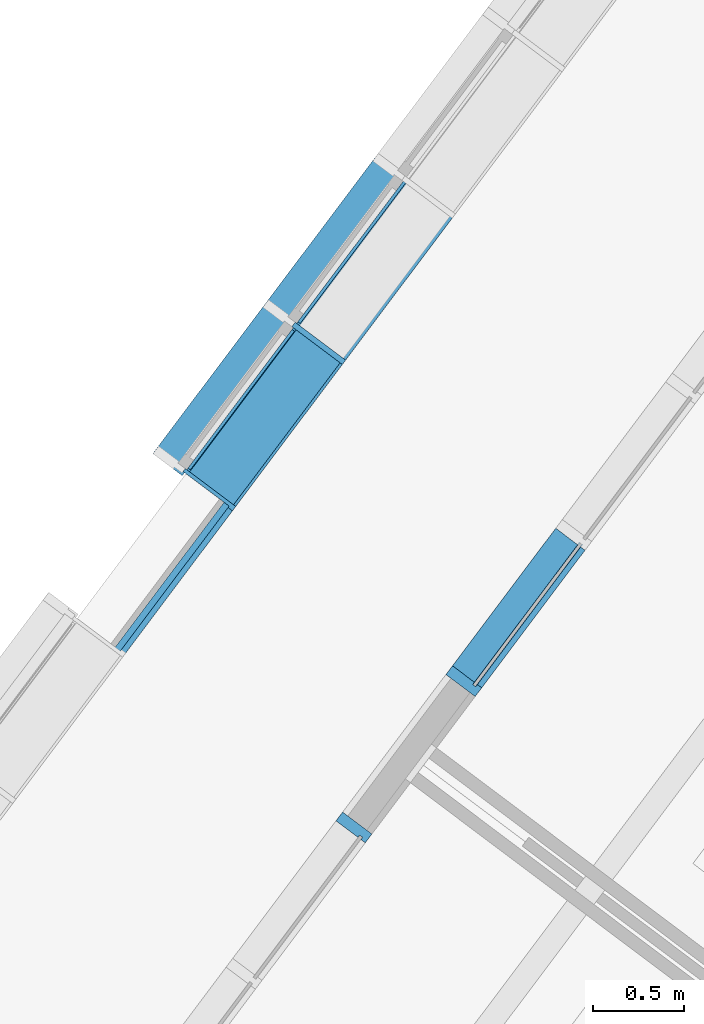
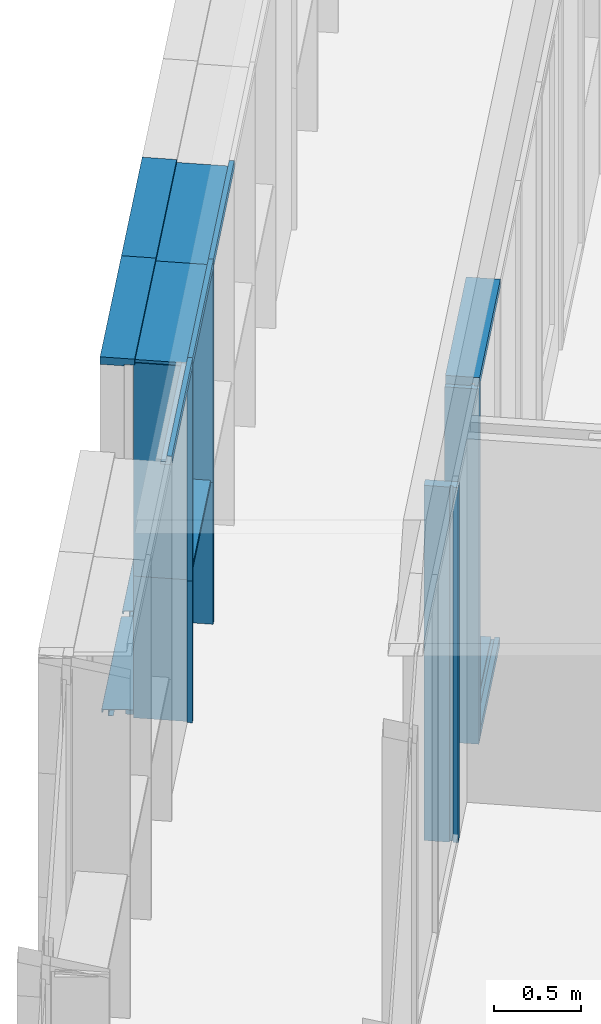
# One storey, part 57 of 243: 16 members, 3 elements without a shape of their own.
"""IFC2X3 building model written with IfcOpenShell, lengths in metres."""

import ifcopenshell
import ifcopenshell.guid

model = None  # the IFC model being written
_history = None  # IfcOwnerHistory: only IFC2X3 demands one
_inside = {}  # id of a spatial element -> (the spatial element, [elements in it])
_under = {}  # id of a project, library or spatial element -> (it, [spatial elements below it])
_declared = {}  # id of a project -> (the project, [libraries it declares])
_typed = {}  # id of a type object -> (the type object, [elements of that type])
_made_of = {}  # id of a material, layer set ... -> (it, [elements and type objects made of it])


def new_model(schema):
    """Start an empty IFC model of exactly this schema.

    Asked for "IFC4X3", IfcOpenShell would pick the latest addendum, in which some entities
    have other attributes; the version numbers below select the first issue.
    IFC2X3 requires an IfcOwnerHistory on every rooted entity: one is made here for all.
    """
    global model, _history
    if schema == "IFC4X3":
        model = ifcopenshell.file(schema_version=(4, 3, 0, 0))
    else:
        model = ifcopenshell.file(schema=schema)
    _inside.clear()
    _under.clear()
    _declared.clear()
    _typed.clear()
    _made_of.clear()
    _history = None
    if model.schema == "IFC2X3":
        org = make("IfcOrganization", Name="unknown")
        user = make(
            "IfcPersonAndOrganization",
            ThePerson=make("IfcPerson", FamilyName="unknown"),
            TheOrganization=org,
        )
        app = make(
            "IfcApplication",
            ApplicationDeveloper=org,
            Version="unknown",
            ApplicationFullName="unknown",
            ApplicationIdentifier="unknown",
        )
        _history = make(
            "IfcOwnerHistory",
            OwningUser=user,
            OwningApplication=app,
            ChangeAction="ADDED",
            CreationDate=0,
        )
    return model


def make(cls, **values):
    """One entity of the class cls with the attributes given. An attribute that is None is left unset."""
    return model.create_entity(
        cls, **{name: value for name, value in values.items() if value is not None}
    )


def entity(cls, *values):
    """Any entity or typed value of the class cls, its attributes in the order of the schema. None: left unset."""
    e = model.create_entity(cls)
    for i, value in enumerate(values):
        if value is not None:
            e[i] = value
    return e


def rooted(cls, **values):
    """An entity with a GlobalId (a new one), such as an element, a storey or a relation."""
    return make(cls, GlobalId=ifcopenshell.guid.new(), OwnerHistory=_history, **values)


def si_unit(unit_type, name, prefix=None):
    """IfcSIUnit, for example si_unit("LENGTHUNIT", "METRE", prefix="MILLI")."""
    return make("IfcSIUnit", UnitType=unit_type, Prefix=prefix, Name=name)


def converted_unit(unit_type, name, factor, base, dimensions=None, offset=None):
    """IfcConversionBasedUnit, such as the inch: factor (a typed value) times the base unit."""
    return make(
        "IfcConversionBasedUnit"
        if offset is None
        else "IfcConversionBasedUnitWithOffset",
        ConversionOffset=offset,
        Dimensions=None
        if dimensions is None
        else entity("IfcDimensionalExponents", *dimensions),
        UnitType=unit_type,
        Name=name,
        ConversionFactor=make(
            "IfcMeasureWithUnit", ValueComponent=factor, UnitComponent=base
        ),
    )


def derived_unit(unit_type, elements):
    """IfcDerivedUnit: a product of units, each with its exponent."""
    return make(
        "IfcDerivedUnit",
        Elements=[
            make("IfcDerivedUnitElement", Unit=unit, Exponent=power)
            for unit, power in elements
        ],
        UnitType=unit_type,
    )


def assignment(units):
    """IfcUnitAssignment: the units of a project."""
    return None if units is None else make("IfcUnitAssignment", Units=units)


def point(xyz):
    """IfcCartesianPoint."""
    return None if xyz is None else make("IfcCartesianPoint", Coordinates=xyz)


def direction(xyz):
    """IfcDirection."""
    return None if xyz is None else make("IfcDirection", DirectionRatios=xyz)


def frame(location, z_axis=None, x_axis=None):
    """IfcAxis2Placement3D, a coordinate frame: its origin and axes. An axis left out is left unset."""
    return make(
        "IfcAxis2Placement3D",
        Location=point(location),
        Axis=direction(z_axis),
        RefDirection=direction(x_axis),
    )


def frame_2d(location, x_axis=None):
    """IfcAxis2Placement2D, a coordinate frame in the plane: its origin and x axis."""
    return make(
        "IfcAxis2Placement2D", Location=point(location), RefDirection=direction(x_axis)
    )


def origin():
    """The frame at (0, 0, 0) with its axes left unset."""
    return frame((0.0, 0.0, 0.0))


def place(relative_to, where):
    """IfcLocalPlacement: puts the frame where relative to a parent placement (None: the world)."""
    return make(
        "IfcLocalPlacement", PlacementRelTo=relative_to, RelativePlacement=where
    )


def context(
    kind, dimensions, precision=None, world=None, true_north=None, identifier=None
):
    """IfcGeometricRepresentationContext, for example the 3D "Model" context."""
    return make(
        "IfcGeometricRepresentationContext",
        ContextIdentifier=identifier,
        ContextType=kind,
        CoordinateSpaceDimension=dimensions,
        Precision=precision,
        WorldCoordinateSystem=world,
        TrueNorth=true_north,
    )


def subcontext(parent, identifier, kind, view, scale=None):
    """IfcGeometricRepresentationSubContext, for example "Body" below "Model"."""
    return make(
        "IfcGeometricRepresentationSubContext",
        ContextIdentifier=identifier,
        ContextType=kind,
        ParentContext=parent,
        TargetScale=scale,
        TargetView=view,
    )


def project(units=None, contexts=None):
    """IfcProject with its units and contexts."""
    return rooted(
        "IfcProject",
        Name="project",
        RepresentationContexts=contexts,
        UnitsInContext=assignment(units),
    )


def spatial(cls, under=None, at=None, **own):
    """A site, building, storey or space (cls), placed at a placement, below another one or the project."""
    s = rooted(cls, ObjectPlacement=at, **own)
    if under is not None:
        _under.setdefault(under.id(), (under, []))[1].append(s)
    return s


def polyline(points):
    """IfcPolyline through the points."""
    return make("IfcPolyline", Points=[point(p) for p in points])


def circle_curve(where, radius):
    """IfcCircle in the frame where."""
    return make("IfcCircle", Position=where, Radius=radius)


def parameter(value):
    """IfcParameterValue: where a trimmed curve begins or ends, as a parameter of its basis curve."""
    return model.create_entity("IfcParameterValue", value)


def trimmed(basis, trim1, trim2, sense, master):
    """IfcTrimmedCurve: the piece of a basis curve between two trims."""
    return make(
        "IfcTrimmedCurve",
        BasisCurve=basis,
        Trim1=trim1,
        Trim2=trim2,
        SenseAgreement=sense,
        MasterRepresentation=master,
    )


def segment(curve, same_sense, transition):
    """IfcCompositeCurveSegment."""
    return make(
        "IfcCompositeCurveSegment",
        Transition=transition,
        SameSense=same_sense,
        ParentCurve=curve,
    )


def composite_curve(segments, self_intersect=None):
    """IfcCompositeCurve: segments joined end to end."""
    return make("IfcCompositeCurve", Segments=segments, SelfIntersect=self_intersect)


def profile(cls, at=None, kind="AREA", **sizes):
    """A parametric profile (cls). Its sizes go by their IFC names, for example OverallWidth=200.0."""
    return make(cls, ProfileType=kind, Position=at, **sizes)


def rectangle(**sizes):
    """IfcRectangleProfileDef."""
    return profile("IfcRectangleProfileDef", **sizes)


def outline(outer, holes=None, kind="AREA"):
    """IfcArbitraryClosedProfileDef: a profile drawn as a closed curve; with holes, ...WithVoids."""
    if holes is None:
        return make("IfcArbitraryClosedProfileDef", ProfileType=kind, OuterCurve=outer)
    return make(
        "IfcArbitraryProfileDefWithVoids",
        ProfileType=kind,
        OuterCurve=outer,
        InnerCurves=holes,
    )


def extrude(swept, where, along, depth):
    """IfcExtrudedAreaSolid: the profile swept, set in the frame where, extruded along a direction by depth."""
    return make(
        "IfcExtrudedAreaSolid",
        SweptArea=swept,
        Position=where,
        ExtrudedDirection=direction(along),
        Depth=depth,
    )


def shape(context_of_items, identifier, shape_type, items):
    """IfcShapeRepresentation: the items that make up one representation, for example the "Body"."""
    return make(
        "IfcShapeRepresentation",
        ContextOfItems=context_of_items,
        RepresentationIdentifier=identifier,
        RepresentationType=shape_type,
        Items=items,
    )


def source(mapping_origin, context_of_items, identifier, shape_type, items):
    """IfcRepresentationMap: a shape defined once, which mapped items show again and again."""
    return make(
        "IfcRepresentationMap",
        MappingOrigin=mapping_origin,
        MappedRepresentation=shape(context_of_items, identifier, shape_type, items),
    )


def transform(
    local_origin,
    x_axis=None,
    y_axis=None,
    z_axis=None,
    scale=None,
    scale2=None,
    scale3=None,
    uniform=True,
):
    """IfcCartesianTransformationOperator3D, or its non-uniform kind. x_axis, y_axis, z_axis: its Axis1, 2, 3."""
    if uniform:
        return make(
            "IfcCartesianTransformationOperator3D",
            Axis1=direction(x_axis),
            Axis2=direction(y_axis),
            LocalOrigin=point(local_origin),
            Scale=scale,
            Axis3=direction(z_axis),
        )
    return make(
        "IfcCartesianTransformationOperator3DnonUniform",
        Axis1=direction(x_axis),
        Axis2=direction(y_axis),
        LocalOrigin=point(local_origin),
        Scale=scale,
        Axis3=direction(z_axis),
        Scale2=scale2,
        Scale3=scale3,
    )


def mapped(mapping_source, mapping_target):
    """IfcMappedItem: shows the shape of a source again, moved by a transform."""
    return make(
        "IfcMappedItem", MappingSource=mapping_source, MappingTarget=mapping_target
    )


def material(Name=None, Category=None):
    """IfcMaterial."""
    return make("IfcMaterial", Name=Name, Category=Category)


def made_of(thing, what):
    """Note that an element or type object is made of a material, layer set ...; save() writes the relation."""
    if what is not None:
        _made_of.setdefault(what.id(), (what, []))[1].append(thing)
    return thing


def type_object(cls, material=None, **own):
    """A type object (cls), such as IfcWallType, which elements share."""
    return made_of(rooted(cls, **own), material)


def type_shapes(of_type, sources):
    """Give a type object the sources (RepresentationMaps) that its elements show as mapped items."""
    of_type.RepresentationMaps = sources


def element(
    cls,
    number,
    at=None,
    inside=None,
    cuts=None,
    type_object=None,
    material=None,
    context=None,
    identifier="Body",
    shape_type=None,
    held_by="IfcProductDefinitionShape",
    body=None,
    shapes=None,
    **own,
):
    """One element of the class cls, such as IfcWall. Its Tag is "e" and its number.

    at: its placement. inside: the storey or other place that contains it. cuts: it is an
    opening in that element (IfcRelVoidsElement). A single representation is given by context,
    identifier, shape_type and body (its items); several are given by shapes. held_by: the class
    of the entity that holds the representations. save() writes the other relations.
    """
    e = rooted(cls, Tag="e%d" % number, ObjectPlacement=at, **own)
    if body is not None:
        shapes = [shape(context, identifier, shape_type, body)]
    if shapes is not None:
        e.Representation = make(held_by, Representations=shapes)
    if inside is not None:
        _inside.setdefault(inside.id(), (inside, []))[1].append(e)
    if cuts is not None:
        rooted(
            "IfcRelVoidsElement", RelatingBuildingElement=cuts, RelatedOpeningElement=e
        )
    if type_object is not None:
        _typed.setdefault(type_object.id(), (type_object, []))[1].append(e)
    return made_of(e, material)


def aggregate(whole, parts):
    """IfcRelAggregates: a whole, such as a stair, and the parts it consists of."""
    return rooted("IfcRelAggregates", RelatingObject=whole, RelatedObjects=parts)


def save(model, path):
    """Write the relations noted so far, then the file.

    IfcRelAggregates (storeys below a building ...), IfcRelContainedInSpatialStructure (elements
    in a storey), IfcRelDefinesByType, IfcRelAssociatesMaterial and IfcRelDeclares: one each for
    every whole, place, type object, material and project.
    """
    for whole, parts in _under.values():
        aggregate(whole, parts)
    for where, things in _inside.values():
        rooted(
            "IfcRelContainedInSpatialStructure",
            RelatedElements=things,
            RelatingStructure=where,
        )
    for kind, things in _typed.values():
        rooted("IfcRelDefinesByType", RelatedObjects=things, RelatingType=kind)
    for what, things in _made_of.values():
        rooted("IfcRelAssociatesMaterial", RelatedObjects=things, RelatingMaterial=what)
    for by, libraries in _declared.values():
        rooted("IfcRelDeclares", RelatingContext=by, RelatedDefinitions=libraries)
    model.write(path)


model = new_model("IFC2X3")

# Units and contexts
model_context = context("Model", 3, precision=1e-05, world=origin(), true_north=direction((6.123031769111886e-17, 1.0)))
body_context = subcontext(model_context, "Body", "Model", "MODEL_VIEW")
ifc_project = project(units=[si_unit("LENGTHUNIT", "METRE"), si_unit("AREAUNIT", "SQUARE_METRE"), si_unit("VOLUMEUNIT", "CUBIC_METRE"), converted_unit("PLANEANGLEUNIT", "DEGREE", entity("IfcRatioMeasure", 0.017453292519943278), si_unit("PLANEANGLEUNIT", "RADIAN"), dimensions=[0, 0, 0, 0, 0, 0, 0]), si_unit("MASSUNIT", "GRAM", prefix="KILO"), derived_unit("MASSDENSITYUNIT", [(si_unit("MASSUNIT", "GRAM", prefix="KILO"), 1), (si_unit("LENGTHUNIT", "METRE"), -3)]), derived_unit("IONCONCENTRATIONUNIT", [(si_unit("MASSUNIT", "GRAM", prefix="KILO"), 1), (si_unit("LENGTHUNIT", "METRE"), -3)]), derived_unit("MOMENTOFINERTIAUNIT", [(si_unit("LENGTHUNIT", "METRE"), 4)]), si_unit("TIMEUNIT", "SECOND"), si_unit("FREQUENCYUNIT", "HERTZ"), si_unit("THERMODYNAMICTEMPERATUREUNIT", "DEGREE_CELSIUS"), derived_unit("THERMALTRANSMITTANCEUNIT", [(si_unit("MASSUNIT", "GRAM", prefix="KILO"), 1), (si_unit("THERMODYNAMICTEMPERATUREUNIT", "KELVIN"), -1), (si_unit("TIMEUNIT", "SECOND"), -3)]), derived_unit("THERMALCONDUCTANCEUNIT", [(si_unit("MASSUNIT", "GRAM", prefix="KILO"), 1), (si_unit("THERMODYNAMICTEMPERATUREUNIT", "KELVIN"), -1), (si_unit("TIMEUNIT", "SECOND"), -3), (si_unit("LENGTHUNIT", "METRE"), 1)]), derived_unit("VOLUMETRICFLOWRATEUNIT", [(si_unit("LENGTHUNIT", "METRE"), 3), (si_unit("TIMEUNIT", "SECOND"), -1)]), derived_unit("MASSFLOWRATEUNIT", [(si_unit("MASSUNIT", "GRAM", prefix="KILO"), 1), (si_unit("TIMEUNIT", "SECOND"), -1)]), derived_unit("ROTATIONALFREQUENCYUNIT", [(si_unit("TIMEUNIT", "SECOND"), -1)]), si_unit("ELECTRICCURRENTUNIT", "AMPERE"), si_unit("ELECTRICVOLTAGEUNIT", "VOLT"), si_unit("POWERUNIT", "WATT"), si_unit("FORCEUNIT", "NEWTON", prefix="KILO"), si_unit("ILLUMINANCEUNIT", "LUX"), si_unit("LUMINOUSFLUXUNIT", "LUMEN"), si_unit("LUMINOUSINTENSITYUNIT", "CANDELA"), derived_unit("USERDEFINED", [(si_unit("MASSUNIT", "GRAM", prefix="KILO"), -1), (si_unit("LENGTHUNIT", "METRE"), -2), (si_unit("TIMEUNIT", "SECOND"), 3), (si_unit("LUMINOUSFLUXUNIT", "LUMEN"), 1)]), derived_unit("USERDEFINED", [(si_unit("MASSUNIT", "GRAM", prefix="KILO"), 1), (si_unit("TIMEUNIT", "SECOND"), -3), (si_unit("LENGTHUNIT", "METRE"), 3), (si_unit("ELECTRICCURRENTUNIT", "AMPERE"), -2)]), derived_unit("SOUNDPOWERUNIT", [(si_unit("MASSUNIT", "GRAM", prefix="KILO"), 1), (si_unit("TIMEUNIT", "SECOND"), -3), (si_unit("LENGTHUNIT", "METRE"), 2)]), derived_unit("SOUNDPRESSUREUNIT", [(si_unit("MASSUNIT", "GRAM", prefix="KILO"), 1), (si_unit("LENGTHUNIT", "METRE"), -1), (si_unit("TIMEUNIT", "SECOND"), -2)]), derived_unit("LINEARVELOCITYUNIT", [(si_unit("LENGTHUNIT", "METRE"), 1), (si_unit("TIMEUNIT", "SECOND"), -1)]), si_unit("PRESSUREUNIT", "PASCAL"), derived_unit("USERDEFINED", [(si_unit("MASSUNIT", "GRAM", prefix="KILO"), 1), (si_unit("LENGTHUNIT", "METRE"), -2), (si_unit("TIMEUNIT", "SECOND"), -2)]), derived_unit("LINEARFORCEUNIT", [(si_unit("MASSUNIT", "GRAM", prefix="KILO"), 1), (si_unit("TIMEUNIT", "SECOND"), -2)]), derived_unit("PLANARFORCEUNIT", [(si_unit("MASSUNIT", "GRAM", prefix="KILO"), 1), (si_unit("LENGTHUNIT", "METRE"), -1), (si_unit("TIMEUNIT", "SECOND"), -2)]), derived_unit("SPECIFICHEATCAPACITYUNIT", [(si_unit("THERMODYNAMICTEMPERATUREUNIT", "KELVIN"), -1), (si_unit("LENGTHUNIT", "METRE"), 2), (si_unit("TIMEUNIT", "SECOND"), -2)]), derived_unit("HEATINGVALUEUNIT", [(si_unit("LENGTHUNIT", "METRE"), 2), (si_unit("TIMEUNIT", "SECOND"), -2)]), derived_unit("VAPORPERMEABILITYUNIT", [(si_unit("LENGTHUNIT", "METRE"), -1), (si_unit("TIMEUNIT", "SECOND"), 1)]), derived_unit("DYNAMICVISCOSITYUNIT", [(si_unit("MASSUNIT", "GRAM", prefix="KILO"), 1), (si_unit("TIMEUNIT", "SECOND"), -1), (si_unit("LENGTHUNIT", "METRE"), -1)]), derived_unit("THERMALEXPANSIONCOEFFICIENTUNIT", [(si_unit("THERMODYNAMICTEMPERATUREUNIT", "KELVIN"), -1)]), derived_unit("MODULUSOFELASTICITYUNIT", [(si_unit("MASSUNIT", "GRAM", prefix="KILO"), 1), (si_unit("LENGTHUNIT", "METRE"), -1), (si_unit("TIMEUNIT", "SECOND"), -2)]), derived_unit("ISOTHERMALMOISTURECAPACITYUNIT", [(si_unit("LENGTHUNIT", "METRE"), 3), (si_unit("MASSUNIT", "GRAM", prefix="KILO"), -1)]), derived_unit("MOISTUREDIFFUSIVITYUNIT", [(si_unit("TIMEUNIT", "SECOND"), -1), (si_unit("LENGTHUNIT", "METRE"), 2)])], contexts=[model_context])

# Site, building, storey
site_placement = place(None, frame((0.0, 0.0, 235.0), z_axis=(0.0, 0.0, 1.0), x_axis=(-0.7996477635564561, 0.6004693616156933, 0.0)))
site = spatial("IfcSite", under=ifc_project, at=site_placement, Name="Default", CompositionType="ELEMENT")
building_placement = place(site_placement, origin())
building = spatial("IfcBuilding", under=site, at=building_placement, CompositionType="ELEMENT")
storey_placement = place(building_placement, origin())
storey = spatial("IfcBuildingStorey", under=building, at=storey_placement, Name="P0- Escola", CompositionType="ELEMENT", Elevation=0.0)

# Curtain wall, members
curtain_wall_type_1 = type_object("IfcCurtainWallType", Name="Muro cortina:MC- INT- a1", PredefinedType="NOTDEFINED")
curtain_wall_1_placement = place(storey_placement, origin())
curtain_wall_1 = element("IfcCurtainWall", 1, at=curtain_wall_1_placement, inside=storey, type_object=curtain_wall_type_1, Name="Muro cortina:MC- INT- a1", ObjectType="Muro cortina:MC- INT- a1")
ifc_material_1 = material(Name="_Fusta massisa- T1")
member_type_1 = type_object("IfcMemberType", Name="Montante rectangular:MC- Fusta- 20x6 cm- Esquerra", PredefinedType="MULLION", material=ifc_material_1)
shared_shape_1 = source(origin(), body_context, "Body", "SweptSolid", [
    extrude(outline(polyline([(-0.07000000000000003, -0.01875000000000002), (-0.04000000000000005, -0.01875000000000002), (-0.04000000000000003, -0.0037500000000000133), (-0.020000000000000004, -0.0037500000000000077), (-0.02, -0.018750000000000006), (0.13, -0.018749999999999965), (0.12999999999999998, 0.04125000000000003), (-0.06999999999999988, 0.04124999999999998), (-0.07000000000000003, -0.01875000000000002)])), frame((-0.01124999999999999, -0.03, -2.5050000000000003), z_axis=(0.0, 0.0, 1.0), x_axis=(0.0, -1.0, 0.0)), (0.0, 0.0, 1.0), 2.5050000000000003),
])
type_shapes(member_type_1, [shared_shape_1])
member_1_placement = place(curtain_wall_1_placement, frame((72.720147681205, -29.4151899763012, 0.0), z_axis=(0.0, 0.0, -1.0), x_axis=(0.0, -1.0, 0.0)))
member_1 = element("IfcMember", 2, at=member_1_placement, type_object=member_type_1, material=ifc_material_1, Name="Montante rectangular:MC- Fusta- 20x6 cm- Esquerra", ObjectType="Montante rectangular:MC- Fusta- 20x6 cm- Esquerra", context=body_context, shape_type="MappedRepresentation", body=[
    mapped(shared_shape_1, transform((0.0, 0.0, 0.0), scale=1.0)),
])
member_type_2 = type_object("IfcMemberType", Name="Montante rectangular:MC- Fusta- 20x6 cm- Dreta", PredefinedType="MULLION", material=ifc_material_1)
shared_shape_2 = source(origin(), body_context, "Body", "SweptSolid", [
    extrude(outline(polyline([(-0.07000000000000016, -0.041249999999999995), (0.13000000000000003, -0.041249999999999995), (0.13000000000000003, 0.01875), (-0.019999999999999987, 0.01875), (-0.019999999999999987, 0.00375), (-0.04000000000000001, 0.00375), (-0.03999999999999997, 0.01875), (-0.06999999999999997, 0.01875), (-0.07000000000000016, -0.041249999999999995)])), frame((0.011250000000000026, -0.02999999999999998, -2.5050000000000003), z_axis=(0.0, 0.0, 1.0), x_axis=(0.0, -1.0, 0.0)), (0.0, 0.0, 1.0), 2.5050000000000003),
])
type_shapes(member_type_2, [shared_shape_2])
member_2_placement = place(curtain_wall_1_placement, frame((72.720147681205, -30.4151899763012, 0.0), z_axis=(0.0, 0.0, -1.0), x_axis=(0.0, -1.0, 0.0)))
member_2 = element("IfcMember", 3, at=member_2_placement, type_object=member_type_2, material=ifc_material_1, Name="Montante rectangular:MC- Fusta- 20x6 cm- Dreta", ObjectType="Montante rectangular:MC- Fusta- 20x6 cm- Dreta", context=body_context, shape_type="MappedRepresentation", body=[
    mapped(shared_shape_2, transform((0.0, 0.0, 0.0), scale=1.0)),
])
member_type_3 = type_object("IfcMemberType", Name="Montante rectangular:MC- Fusta- 20x6 cm- Esquerra", PredefinedType="MULLION", material=ifc_material_1)
shared_shape_3 = source(origin(), body_context, "Body", "SweptSolid", [
    extrude(outline(polyline([(-0.07000000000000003, -0.01875000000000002), (-0.04000000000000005, -0.01875000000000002), (-0.04000000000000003, -0.0037500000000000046), (-0.020000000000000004, -0.0037500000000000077), (-0.02, -0.018750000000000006), (0.13, -0.018749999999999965), (0.12999999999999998, 0.04125000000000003), (-0.06999999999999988, 0.04124999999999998), (-0.07000000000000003, -0.01875000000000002)])), frame((-0.041249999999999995, -0.03, -1.0), z_axis=(0.0, 0.0, 1.0), x_axis=(0.0, -1.0, 0.0)), (0.0, 0.0, 1.0), 0.9999999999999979),
])
type_shapes(member_type_3, [shared_shape_3])
member_3_placement = place(curtain_wall_1_placement, frame((72.720147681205, -31.415189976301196, 2.565), z_axis=(0.0, -1.0, 0.0), x_axis=(0.0, 0.0, 1.0)))
member_3 = element("IfcMember", 4, at=member_3_placement, type_object=member_type_3, material=ifc_material_1, Name="Montante rectangular:MC- Fusta- 20x6 cm- Esquerra", ObjectType="Montante rectangular:MC- Fusta- 20x6 cm- Esquerra", context=body_context, shape_type="MappedRepresentation", body=[
    mapped(shared_shape_3, transform((0.0, 0.0, 0.0), scale=1.0)),
])
member_type_4 = type_object("IfcMemberType", Name="Montante rectangular:MC- Fusta- 20x6 cm- Inferior", PredefinedType="MULLION", material=ifc_material_1)
shared_shape_4 = source(origin(), body_context, "Body", "SweptSolid", [
    extrude(outline(polyline([(-0.06999999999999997, -0.018750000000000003), (-0.039999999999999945, -0.018750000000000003), (-0.03999999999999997, -0.003750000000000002), (-0.019999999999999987, -0.0037500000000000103), (-0.019999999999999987, -0.018750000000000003), (0.13000000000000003, -0.018750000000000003), (0.13000000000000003, 0.041249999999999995), (-0.07000000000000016, 0.041249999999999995), (-0.06999999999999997, -0.018750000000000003)])), frame((-0.041249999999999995, -0.02999999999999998, -0.9399999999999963), z_axis=(0.0, 0.0, 1.0), x_axis=(0.0, -1.0, 0.0)), (0.0, 0.0, 1.0), 0.9399999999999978),
])
type_shapes(member_type_4, [shared_shape_4])
member_4_placement = place(curtain_wall_1_placement, frame((72.720147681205, -30.4451899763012, 0.0), z_axis=(0.0, 1.0, 0.0), x_axis=(0.0, 0.0, -1.0)))
member_4 = element("IfcMember", 5, at=member_4_placement, type_object=member_type_4, material=ifc_material_1, Name="Montante rectangular:MC- Fusta- 20x6 cm- Inferior", ObjectType="Montante rectangular:MC- Fusta- 20x6 cm- Inferior", context=body_context, shape_type="MappedRepresentation", body=[
    mapped(shared_shape_4, transform((0.0, 0.0, 0.0), scale=1.0)),
])
aggregate(curtain_wall_1, [member_3, member_2, member_1, member_4])

curtain_wall_type_2 = type_object("IfcCurtainWallType", Name="Muro cortina:MC- INT- k2", PredefinedType="NOTDEFINED")
curtain_wall_2_placement = place(storey_placement, origin())
curtain_wall_2 = element("IfcCurtainWall", 6, at=curtain_wall_2_placement, inside=storey, type_object=curtain_wall_type_2, Name="Muro cortina:MC- INT- k2", ObjectType="Muro cortina:MC- INT- k2")
member_type_5 = type_object("IfcMemberType", Name="Montante rectangular:MC- Fusta- 35x3 cm- Pati aules- Remat superior", PredefinedType="MULLION", material=ifc_material_1)
shared_shape_5 = source(origin(), body_context, "Body", "SweptSolid", [
    extrude(outline(polyline([(-0.12166666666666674, -0.02666666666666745), (0.21333333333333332, -0.02666666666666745), (0.2133333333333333, -0.006666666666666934), (-0.09166666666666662, -0.006666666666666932), (-0.09166666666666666, 0.03333333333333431), (-0.12166666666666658, 0.03333333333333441), (-0.12166666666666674, -0.02666666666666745)])), frame((-0.033333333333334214, -0.026666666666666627, -1.0), z_axis=(0.0, 0.0, 1.0), x_axis=(0.0, -1.0, 0.0)), (0.0, 0.0, 1.0), 0.9999999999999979),
])
type_shapes(member_type_5, [shared_shape_5])
member_5_placement = place(curtain_wall_2_placement, frame((74.44514768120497, -31.41519175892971, 2.565), z_axis=(0.0, -1.0, 0.0), x_axis=(0.0, 0.0, 1.0)))
member_5 = element("IfcMember", 7, at=member_5_placement, type_object=member_type_5, material=ifc_material_1, Name="Montante rectangular:MC- Fusta- 35x3 cm- Pati aules- Remat superior", ObjectType="Montante rectangular:MC- Fusta- 35x3 cm- Pati aules- Remat superior", context=body_context, shape_type="MappedRepresentation", body=[
    mapped(shared_shape_5, transform((0.0, 0.0, 0.0), scale=1.0)),
])
member_type_6 = type_object("IfcMemberType", Name="Montante rectangular:MC- Fusta- 35x3 cm- Centre", PredefinedType="MULLION", material=ifc_material_1)
shared_shape_6 = source(origin(), body_context, "Body", "SweptSolid", [
    extrude(rectangle(XDim=0.3450000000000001, YDim=0.030000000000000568, at=frame_2d((0.0, -1.3964523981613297e-16), x_axis=(1.0, 0.0))), frame((0.0, -0.07750000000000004, -1.0), z_axis=(0.0, 0.0, 1.0), x_axis=(0.0, -1.0, 0.0)), (0.0, 0.0, 1.0), 1.0),
])
type_shapes(member_type_6, [shared_shape_6])
member_6_placement = place(curtain_wall_2_placement, frame((74.44514768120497, -31.41519175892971, 0.0), z_axis=(0.0, 0.0, -1.0), x_axis=(0.0, -1.0, 0.0)))
member_6 = element("IfcMember", 8, at=member_6_placement, type_object=member_type_6, material=ifc_material_1, Name="Montante rectangular:MC- Fusta- 35x3 cm- Centre", ObjectType="Montante rectangular:MC- Fusta- 35x3 cm- Centre", context=body_context, shape_type="MappedRepresentation", body=[
    mapped(shared_shape_6, transform((0.0, 0.0, 0.0), scale=1.0)),
])
member_type_7 = type_object("IfcMemberType", Name="Montante rectangular:MC- Fusta- 35x3 cm- Pati aules- Remat superior", PredefinedType="MULLION", material=ifc_material_1)
shared_shape_7 = source(origin(), body_context, "Body", "SweptSolid", [
    extrude(outline(polyline([(-0.12166666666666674, -0.02666666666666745), (0.21333333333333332, -0.02666666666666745), (0.2133333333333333, -0.006666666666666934), (-0.09166666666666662, -0.006666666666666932), (-0.09166666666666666, 0.03333333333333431), (-0.12166666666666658, 0.03333333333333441), (-0.12166666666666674, -0.02666666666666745)])), frame((-0.033333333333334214, -0.026666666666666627, -1.0), z_axis=(0.0, 0.0, 1.0), x_axis=(0.0, -1.0, 0.0)), (0.0, 0.0, 1.0), 0.9999999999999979),
])
type_shapes(member_type_7, [shared_shape_7])
member_7_placement = place(curtain_wall_2_placement, frame((74.44514768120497, -32.41519175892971, 2.565), z_axis=(0.0, -1.0, 0.0), x_axis=(0.0, 0.0, 1.0)))
member_7 = element("IfcMember", 9, at=member_7_placement, type_object=member_type_7, material=ifc_material_1, Name="Montante rectangular:MC- Fusta- 35x3 cm- Pati aules- Remat superior", ObjectType="Montante rectangular:MC- Fusta- 35x3 cm- Pati aules- Remat superior", context=body_context, shape_type="MappedRepresentation", body=[
    mapped(shared_shape_7, transform((0.0, 0.0, 0.0), scale=1.0)),
])
member_type_8 = type_object("IfcMemberType", Name="Montante rectangular:MC- Fusta- 35x3 cm- Pati aules- Remat superior pilar", PredefinedType="MULLION", material=ifc_material_1)
shared_shape_8 = source(origin(), body_context, "Body", "SweptSolid", [
    extrude(outline(polyline([(-0.03166666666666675, -0.02666666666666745), (0.03333333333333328, -0.02666666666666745), (0.03333333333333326, -0.00666666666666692), (-0.0016666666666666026, -0.006666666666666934), (-0.0016666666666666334, 0.03333333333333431), (-0.03166666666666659, 0.03333333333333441), (-0.03166666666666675, -0.02666666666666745)])), frame((-0.03333333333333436, 0.06333333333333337, -1.0), z_axis=(0.0, 0.0, 1.0), x_axis=(0.0, -1.0, 0.0)), (0.0, 0.0, 1.0), 0.9999999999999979),
])
type_shapes(member_type_8, [shared_shape_8])
member_8_placement = place(curtain_wall_2_placement, frame((74.44514768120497, -30.415191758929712, 2.565), z_axis=(0.0, -1.0, 0.0), x_axis=(0.0, 0.0, 1.0)))
member_8 = element("IfcMember", 10, at=member_8_placement, type_object=member_type_8, material=ifc_material_1, Name="Montante rectangular:MC- Fusta- 35x3 cm- Pati aules- Remat superior pilar", ObjectType="Montante rectangular:MC- Fusta- 35x3 cm- Pati aules- Remat superior pilar", context=body_context, shape_type="MappedRepresentation", body=[
    mapped(shared_shape_8, transform((0.0, 0.0, 0.0), scale=1.0)),
])
member_type_9 = type_object("IfcMemberType", Name="Montante rectangular:MC- Fusta- 35x3 cm- Pati aules- Prestatge", PredefinedType="MULLION", material=ifc_material_1)
shared_shape_9 = source(origin(), body_context, "Body", "SweptSolid", [
    extrude(rectangle(XDim=0.30000000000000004, YDim=0.03000000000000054, at=frame_2d((0.0, -1.231653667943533e-16), x_axis=(1.0, 0.0))), frame((0.0, -0.07000000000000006, -0.9699999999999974), z_axis=(0.0, 0.0, 1.0), x_axis=(0.0, -1.0, 0.0)), (0.0, 0.0, 1.0), 0.969999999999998),
])
type_shapes(member_type_9, [shared_shape_9])
member_9_placement = place(curtain_wall_2_placement, frame((74.44514768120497, -31.400191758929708, 1.0), z_axis=(0.0, -1.0, 0.0), x_axis=(0.0, 0.0, 1.0)))
member_9 = element("IfcMember", 11, at=member_9_placement, type_object=member_type_9, material=ifc_material_1, Name="Montante rectangular:MC- Fusta- 35x3 cm- Pati aules- Prestatge", ObjectType="Montante rectangular:MC- Fusta- 35x3 cm- Pati aules- Prestatge", context=body_context, shape_type="MappedRepresentation", body=[
    mapped(shared_shape_9, transform((0.0, 0.0, 0.0), scale=1.0)),
])
member_type_10 = type_object("IfcMemberType", Name="Montante rectangular:MC- Fusta- 35x3 cm- Centre", PredefinedType="MULLION", material=ifc_material_1)
shared_shape_10 = source(origin(), body_context, "Body", "SweptSolid", [
    extrude(rectangle(XDim=0.3450000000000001, YDim=0.030000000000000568, at=frame_2d((0.0, -1.3964523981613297e-16), x_axis=(1.0, 0.0))), frame((0.0, -0.07750000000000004, -1.504999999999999), z_axis=(0.0, 0.0, 1.0), x_axis=(0.0, -1.0, 0.0)), (0.0, 0.0, 1.0), 1.504999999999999),
])
type_shapes(member_type_10, [shared_shape_10])
member_10_placement = place(curtain_wall_2_placement, frame((74.44514768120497, -31.41519175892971, 1.0), z_axis=(0.0, 0.0, -1.0), x_axis=(0.0, -1.0, 0.0)))
member_10 = element("IfcMember", 12, at=member_10_placement, type_object=member_type_10, material=ifc_material_1, Name="Montante rectangular:MC- Fusta- 35x3 cm- Centre", ObjectType="Montante rectangular:MC- Fusta- 35x3 cm- Centre", context=body_context, shape_type="MappedRepresentation", body=[
    mapped(shared_shape_10, transform((0.0, 0.0, 0.0), scale=1.0)),
])
member_type_11 = type_object("IfcMemberType", Name="Montante rectangular:MC- Fusta- 34x3 cm- Fa Pista- Remat esquerra", PredefinedType="MULLION", material=ifc_material_1)
shared_shape_11 = source(origin(), body_context, "Body", "SweptSolid", [
    extrude(outline(polyline([(-0.12500000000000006, -0.013333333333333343), (-0.09500000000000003, -0.013333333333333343), (-0.09499999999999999, -0.0033333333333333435), (0.22000000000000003, -0.003333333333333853), (0.22000000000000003, 0.016666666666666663), (-0.12500000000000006, 0.01666666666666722), (-0.12500000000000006, -0.013333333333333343)])), frame((-0.00166666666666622, -0.03000000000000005, -1.0), z_axis=(0.0, 0.0, 1.0), x_axis=(0.0, -1.0, 0.0)), (0.0, 0.0, 1.0), 1.0),
])
type_shapes(member_type_11, [shared_shape_11])
member_11_placement = place(curtain_wall_2_placement, frame((74.44514768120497, -30.415191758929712, 0.0), z_axis=(0.0, 0.0, -1.0), x_axis=(0.0, -1.0, 0.0)))
member_11 = element("IfcMember", 13, at=member_11_placement, type_object=member_type_11, material=ifc_material_1, Name="Montante rectangular:MC- Fusta- 34x3 cm- Fa Pista- Remat esquerra", ObjectType="Montante rectangular:MC- Fusta- 34x3 cm- Fa Pista- Remat esquerra", context=body_context, shape_type="MappedRepresentation", body=[
    mapped(shared_shape_11, transform((0.0, 0.0, 0.0), scale=1.0)),
])
member_type_12 = type_object("IfcMemberType", Name="Montante rectangular:MC- Fusta- 34x3 cm- Fa Pista- Remat esquerra", PredefinedType="MULLION", material=ifc_material_1)
shared_shape_12 = source(origin(), body_context, "Body", "SweptSolid", [
    extrude(outline(polyline([(-0.12500000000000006, -0.013333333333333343), (-0.09500000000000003, -0.013333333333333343), (-0.09499999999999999, -0.0033333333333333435), (0.22000000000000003, -0.003333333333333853), (0.22000000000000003, 0.016666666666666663), (-0.12500000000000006, 0.01666666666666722), (-0.12500000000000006, -0.013333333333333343)])), frame((-0.00166666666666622, -0.03000000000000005, -1.504999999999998), z_axis=(0.0, 0.0, 1.0), x_axis=(0.0, -1.0, 0.0)), (0.0, 0.0, 1.0), 1.504999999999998),
])
type_shapes(member_type_12, [shared_shape_12])
member_12_placement = place(curtain_wall_2_placement, frame((74.44514768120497, -30.415191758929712, 1.0), z_axis=(0.0, 0.0, -1.0), x_axis=(0.0, -1.0, 0.0)))
member_12 = element("IfcMember", 14, at=member_12_placement, type_object=member_type_12, material=ifc_material_1, Name="Montante rectangular:MC- Fusta- 34x3 cm- Fa Pista- Remat esquerra", ObjectType="Montante rectangular:MC- Fusta- 34x3 cm- Fa Pista- Remat esquerra", context=body_context, shape_type="MappedRepresentation", body=[
    mapped(shared_shape_12, transform((0.0, 0.0, 0.0), scale=1.0)),
])
aggregate(curtain_wall_2, [member_8, member_11, member_5, member_6, member_7, member_9, member_12, member_10])

curtain_wall_type_3 = type_object("IfcCurtainWallType", Name="Muro cortina:MC- EXT- MC5", PredefinedType="NOTDEFINED")
curtain_wall_3_placement = place(storey_placement, origin())
curtain_wall_3 = element("IfcCurtainWall", 15, at=curtain_wall_3_placement, inside=storey, type_object=curtain_wall_type_3, Name="Muro cortina:MC- EXT- MC5", ObjectType="Muro cortina:MC- EXT- MC5")
ifc_material_2 = material(Name="_Alumini- T1- Perfil")
member_type_13 = type_object("IfcMemberType", Name="Montante rectangular:MC- Alu- 140x52,5 cm- Fa patis- inferior", PredefinedType="MULLION", material=ifc_material_2)
shared_shape_13 = source(origin(), body_context, "Body", "SweptSolid", [
    extrude(outline(composite_curve([segment(polyline([(-0.144167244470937, -0.02586710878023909), (-0.12786724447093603, -0.025867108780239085)]), True, "CONTINUOUS"), segment(polyline([(-0.12786724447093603, -0.025867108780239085), (-0.12786724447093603, -0.02316710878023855)]), True, "CONTINUOUS"), segment(polyline([(-0.12786724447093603, -0.02316710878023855), (-0.0678672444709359, -0.02316710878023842)]), True, "CONTINUOUS"), segment(polyline([(-0.0678672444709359, -0.02316710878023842), (0.07031215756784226, -0.010722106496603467)]), True, "CONTINUOUS"), segment(trimmed(circle_curve(frame_2d((0.07013275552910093, -0.008730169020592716), x_axis=(0.0897010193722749, -0.9959687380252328)), 0.0019999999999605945), [parameter(0.0)], [parameter(84.8535928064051)], True, "PARAMETER"), True, "CONTINUOUS"), segment(polyline([(0.07213275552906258, -0.00873016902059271), (0.07213275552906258, 0.0062663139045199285)]), True, "CONTINUOUS"), segment(trimmed(circle_curve(frame_2d((0.070132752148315, 0.006266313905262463), x_axis=(1.0, 0.0)), 0.002000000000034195), [parameter(0.0)], [parameter(90.00000002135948)], True, "PARAMETER"), True, "CONTINUOUS"), segment(polyline([(0.070132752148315, 0.00826631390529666), (0.06213275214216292, 0.008266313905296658)]), True, "CONTINUOUS"), segment(polyline([(0.06213275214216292, 0.008266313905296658), (0.06213275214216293, 0.006266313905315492)]), True, "CONTINUOUS"), segment(polyline([(0.06213275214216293, 0.006266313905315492), (0.06963275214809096, 0.006266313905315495)]), True, "CONTINUOUS"), segment(trimmed(circle_curve(frame_2d((0.06963275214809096, 0.005766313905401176), x_axis=(0.0, 1.0)), 0.0004999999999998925), [parameter(269.99999999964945)], [parameter(0.0)], True, "PARAMETER"), False, "CONTINUOUS"), segment(polyline([(0.07013275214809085, 0.0057663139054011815), (0.07013275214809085, -0.008730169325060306)]), True, "CONTINUOUS"), segment(polyline([(0.07013275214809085, -0.008730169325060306), (0.03213275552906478, -0.012152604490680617)]), True, "CONTINUOUS"), segment(polyline([(0.03213275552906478, -0.012152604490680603), (0.03213275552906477, 0.02913289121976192)]), True, "CONTINUOUS"), segment(polyline([(0.03213275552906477, 0.02913289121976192), (0.0021327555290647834, 0.02913289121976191)]), True, "CONTINUOUS"), segment(polyline([(0.0021327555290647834, 0.02913289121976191), (0.0021327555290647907, 0.027132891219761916)]), True, "CONTINUOUS"), segment(polyline([(0.0021327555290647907, 0.027132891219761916), (0.03013275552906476, 0.027132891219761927)]), True, "CONTINUOUS"), segment(polyline([(0.03013275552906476, 0.02713289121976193), (0.03013275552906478, -0.012332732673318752)]), True, "CONTINUOUS"), segment(polyline([(0.03013275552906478, -0.012332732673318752), (-0.06786724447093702, -0.021159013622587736)]), True, "CONTINUOUS"), segment(polyline([(-0.06786724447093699, -0.021159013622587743), (-0.067867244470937, 0.0091328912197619)]), True, "CONTINUOUS"), segment(polyline([(-0.06786724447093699, 0.0091328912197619), (-0.14416724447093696, 0.009132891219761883)]), True, "CONTINUOUS"), segment(polyline([(-0.14416724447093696, 0.009132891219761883), (-0.144167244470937, -0.02586710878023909)]), True, "CONTINUOUS")], self_intersect=False)), frame((-0.029132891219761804, -0.06786724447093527, -0.9474999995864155), z_axis=(0.0, 0.0, 1.0), x_axis=(0.0, -1.0, 0.0)), (0.0, 0.0, 1.0), 0.9474999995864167),
])
type_shapes(member_type_13, [shared_shape_13])
member_13_placement = place(curtain_wall_3_placement, frame((74.74514768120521, -30.441441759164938, -0.02), z_axis=(0.0, 1.0, 0.0), x_axis=(0.0, 0.0, -1.0)))
member_13 = element("IfcMember", 16, at=member_13_placement, type_object=member_type_13, material=ifc_material_2, Name="Montante rectangular:MC- Alu- 140x52,5 cm- Fa patis- inferior", ObjectType="Montante rectangular:MC- Alu- 140x52,5 cm- Fa patis- inferior", context=body_context, shape_type="MappedRepresentation", body=[
    mapped(shared_shape_13, transform((0.0, 0.0, 0.0), scale=1.0)),
])
member_type_14 = type_object("IfcMemberType", Name="Montante rectangular:MC- Alu- 140x52,5 cm- Fa patis- inferior", PredefinedType="MULLION", material=ifc_material_2)
shared_shape_14 = source(origin(), body_context, "Body", "SweptSolid", [
    extrude(outline(composite_curve([segment(polyline([(-0.144167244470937, -0.025867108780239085), (-0.12786724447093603, -0.02586710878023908)]), True, "CONTINUOUS"), segment(polyline([(-0.12786724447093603, -0.02586710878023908), (-0.12786724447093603, -0.023167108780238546)]), True, "CONTINUOUS"), segment(polyline([(-0.12786724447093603, -0.023167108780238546), (-0.0678672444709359, -0.023167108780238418)]), True, "CONTINUOUS"), segment(polyline([(-0.0678672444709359, -0.023167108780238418), (0.07031215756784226, -0.010722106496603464)]), True, "CONTINUOUS"), segment(trimmed(circle_curve(frame_2d((0.07013275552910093, -0.008730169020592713), x_axis=(0.0897010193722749, -0.9959687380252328)), 0.0019999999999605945), [parameter(0.0)], [parameter(84.8535928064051)], True, "PARAMETER"), True, "CONTINUOUS"), segment(polyline([(0.07213275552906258, -0.008730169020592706), (0.07213275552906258, 0.006266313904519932)]), True, "CONTINUOUS"), segment(trimmed(circle_curve(frame_2d((0.07013275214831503, 0.006266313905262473), x_axis=(1.0, 0.0)), 0.0020000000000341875), [parameter(0.0)], [parameter(90.00000002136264)], True, "PARAMETER"), True, "CONTINUOUS"), segment(polyline([(0.070132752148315, 0.008266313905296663), (0.06213275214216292, 0.008266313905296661)]), True, "CONTINUOUS"), segment(polyline([(0.06213275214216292, 0.008266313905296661), (0.06213275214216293, 0.006266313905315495)]), True, "CONTINUOUS"), segment(polyline([(0.06213275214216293, 0.006266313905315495), (0.06963275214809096, 0.006266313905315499)]), True, "CONTINUOUS"), segment(trimmed(circle_curve(frame_2d((0.06963275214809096, 0.005766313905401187), x_axis=(0.0, 1.0)), 0.0004999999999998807), [parameter(269.9999999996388)], [parameter(0.0)], True, "PARAMETER"), False, "CONTINUOUS"), segment(polyline([(0.07013275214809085, 0.005766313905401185), (0.07013275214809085, -0.008730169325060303)]), True, "CONTINUOUS"), segment(polyline([(0.07013275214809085, -0.008730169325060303), (0.03213275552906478, -0.012152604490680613)]), True, "CONTINUOUS"), segment(polyline([(0.03213275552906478, -0.0121526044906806), (0.03213275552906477, 0.029132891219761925)]), True, "CONTINUOUS"), segment(polyline([(0.03213275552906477, 0.029132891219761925), (0.0021327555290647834, 0.029132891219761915)]), True, "CONTINUOUS"), segment(polyline([(0.0021327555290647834, 0.029132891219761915), (0.0021327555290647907, 0.02713289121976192)]), True, "CONTINUOUS"), segment(polyline([(0.0021327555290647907, 0.02713289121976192), (0.03013275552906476, 0.02713289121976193)]), True, "CONTINUOUS"), segment(polyline([(0.03013275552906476, 0.027132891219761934), (0.03013275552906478, -0.012332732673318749)]), True, "CONTINUOUS"), segment(polyline([(0.03013275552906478, -0.012332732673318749), (-0.06786724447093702, -0.021159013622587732)]), True, "CONTINUOUS"), segment(polyline([(-0.06786724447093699, -0.02115901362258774), (-0.067867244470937, 0.009132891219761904)]), True, "CONTINUOUS"), segment(polyline([(-0.06786724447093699, 0.009132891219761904), (-0.14416724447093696, 0.009132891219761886)]), True, "CONTINUOUS"), segment(polyline([(-0.14416724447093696, 0.009132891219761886), (-0.144167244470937, -0.025867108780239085)]), True, "CONTINUOUS")], self_intersect=False)), frame((-0.029132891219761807, -0.06786724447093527, -0.9737499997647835), z_axis=(0.0, 0.0, 1.0), x_axis=(0.0, -1.0, 0.0)), (0.0, 0.0, 1.0), 0.9737499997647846),
])
type_shapes(member_type_14, [shared_shape_14])
member_14_placement = place(curtain_wall_3_placement, frame((74.74514768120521, -31.44144175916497, -0.02), z_axis=(0.0, 1.0, 0.0), x_axis=(0.0, 0.0, -1.0)))
member_14 = element("IfcMember", 17, at=member_14_placement, type_object=member_type_14, material=ifc_material_2, Name="Montante rectangular:MC- Alu- 140x52,5 cm- Fa patis- inferior", ObjectType="Montante rectangular:MC- Alu- 140x52,5 cm- Fa patis- inferior", context=body_context, shape_type="MappedRepresentation", body=[
    mapped(shared_shape_14, transform((0.0, 0.0, 0.0), scale=1.0)),
])
member_type_15 = type_object("IfcMemberType", Name="Montante rectangular:MC- Alu- 140x52,5 cm- Fa patis- Superior", PredefinedType="MULLION", material=ifc_material_2)
shared_shape_15 = source(origin(), body_context, "Body", "SweptSolid", [
    extrude(outline(polyline([(-0.026333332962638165, -0.021249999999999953), (0.11366666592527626, -0.021249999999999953), (0.11366666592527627, 0.031250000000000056), (-0.08733333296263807, 0.03125000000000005), (-0.0873333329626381, -0.010000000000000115), (-0.026333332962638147, -0.010000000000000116), (-0.026333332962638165, -0.021249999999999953)])), frame((-0.031250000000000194, -0.02733333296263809, -1.0), z_axis=(0.0, 0.0, 1.0), x_axis=(0.0, -1.0, 0.0)), (0.0, 0.0, 1.0), 1.0000000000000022),
])
type_shapes(member_type_15, [shared_shape_15])
member_15_placement = place(curtain_wall_3_placement, frame((74.74514768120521, -32.41519175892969, 2.545), z_axis=(0.0, -1.0, 0.0), x_axis=(0.0, 0.0, 1.0)))
member_15 = element("IfcMember", 18, at=member_15_placement, type_object=member_type_15, material=ifc_material_2, Name="Montante rectangular:MC- Alu- 140x52,5 cm- Fa patis- Superior", ObjectType="Montante rectangular:MC- Alu- 140x52,5 cm- Fa patis- Superior", context=body_context, shape_type="MappedRepresentation", body=[
    mapped(shared_shape_15, transform((0.0, 0.0, 0.0), scale=1.0)),
])
member_type_16 = type_object("IfcMemberType", Name="Montante rectangular:MC- Alu- 140x52,5 cm- Fa patis- Superior", PredefinedType="MULLION", material=ifc_material_2)
shared_shape_16 = source(origin(), body_context, "Body", "SweptSolid", [
    extrude(outline(polyline([(-0.026333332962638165, -0.021249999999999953), (0.11366666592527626, -0.021249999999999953), (0.11366666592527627, 0.031250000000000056), (-0.08733333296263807, 0.03125000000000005), (-0.0873333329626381, -0.010000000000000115), (-0.026333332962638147, -0.010000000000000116), (-0.026333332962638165, -0.021249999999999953)])), frame((-0.031250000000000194, -0.02733333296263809, -1.0262500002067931), z_axis=(0.0, 0.0, 1.0), x_axis=(0.0, -1.0, 0.0)), (0.0, 0.0, 1.0), 1.0262500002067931),
])
type_shapes(member_type_16, [shared_shape_16])
member_16_placement = place(curtain_wall_3_placement, frame((74.74514768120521, -31.415191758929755, 2.545), z_axis=(0.0, -1.0, 0.0), x_axis=(0.0, 0.0, 1.0)))
member_16 = element("IfcMember", 19, at=member_16_placement, type_object=member_type_16, material=ifc_material_2, Name="Montante rectangular:MC- Alu- 140x52,5 cm- Fa patis- Superior", ObjectType="Montante rectangular:MC- Alu- 140x52,5 cm- Fa patis- Superior", context=body_context, shape_type="MappedRepresentation", body=[
    mapped(shared_shape_16, transform((0.0, 0.0, 0.0), scale=1.0)),
])
aggregate(curtain_wall_3, [member_16, member_14, member_15, member_13])

save(model, "model.ifc")
